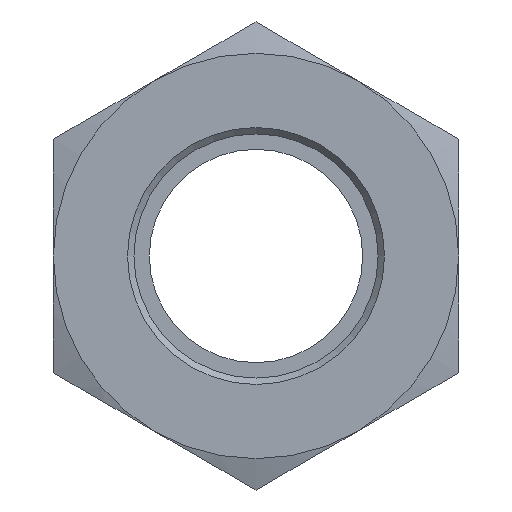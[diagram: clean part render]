
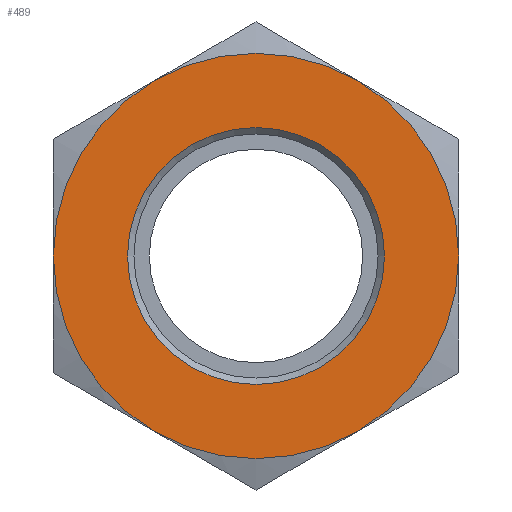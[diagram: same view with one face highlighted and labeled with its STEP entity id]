
A CAD part, front view. The second image highlights one B-rep face of the part: STEP entity #489.
In plain terms, the highlighted planar face has unit normal (0, -1, 0).
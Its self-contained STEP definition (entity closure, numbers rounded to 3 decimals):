
#40=FACE_BOUND('',#119,.T.);
#47=PLANE('',#564);
#82=FACE_OUTER_BOUND('',#118,.T.);
#118=EDGE_LOOP('',(#367,#368,#369,#370,#371,#372));
#119=EDGE_LOOP('',(#373));
#194=CIRCLE('',#559,6.023);
#198=CIRCLE('',#565,9.5);
#199=CIRCLE('',#566,9.5);
#200=CIRCLE('',#567,9.5);
#201=CIRCLE('',#568,9.5);
#202=CIRCLE('',#569,9.5);
#203=CIRCLE('',#570,9.5);
#226=VERTEX_POINT('',#797);
#230=VERTEX_POINT('',#809);
#231=VERTEX_POINT('',#810);
#232=VERTEX_POINT('',#812);
#233=VERTEX_POINT('',#814);
#234=VERTEX_POINT('',#816);
#235=VERTEX_POINT('',#818);
#275=EDGE_CURVE('',#226,#226,#194,.T.);
#281=EDGE_CURVE('',#230,#231,#198,.T.);
#282=EDGE_CURVE('',#231,#232,#199,.T.);
#283=EDGE_CURVE('',#232,#233,#200,.T.);
#284=EDGE_CURVE('',#233,#234,#201,.T.);
#285=EDGE_CURVE('',#234,#235,#202,.T.);
#286=EDGE_CURVE('',#235,#230,#203,.T.);
#367=ORIENTED_EDGE('',*,*,#281,.T.);
#368=ORIENTED_EDGE('',*,*,#282,.T.);
#369=ORIENTED_EDGE('',*,*,#283,.T.);
#370=ORIENTED_EDGE('',*,*,#284,.T.);
#371=ORIENTED_EDGE('',*,*,#285,.T.);
#372=ORIENTED_EDGE('',*,*,#286,.T.);
#373=ORIENTED_EDGE('',*,*,#275,.F.);
#489=ADVANCED_FACE('',(#82,#40),#47,.F.);
#559=AXIS2_PLACEMENT_3D('',#798,#653,#654);
#564=AXIS2_PLACEMENT_3D('',#808,#665,#666);
#565=AXIS2_PLACEMENT_3D('',#811,#667,#668);
#566=AXIS2_PLACEMENT_3D('',#813,#669,#670);
#567=AXIS2_PLACEMENT_3D('',#815,#671,#672);
#568=AXIS2_PLACEMENT_3D('',#817,#673,#674);
#569=AXIS2_PLACEMENT_3D('',#819,#675,#676);
#570=AXIS2_PLACEMENT_3D('',#820,#677,#678);
#653=DIRECTION('center_axis',(0.,-1.,0.));
#654=DIRECTION('ref_axis',(-1.,0.,0.));
#665=DIRECTION('center_axis',(0.,1.,0.));
#666=DIRECTION('ref_axis',(0.,0.,1.));
#667=DIRECTION('center_axis',(0.,-1.,0.));
#668=DIRECTION('ref_axis',(1.,0.,0.));
#669=DIRECTION('center_axis',(0.,-1.,0.));
#670=DIRECTION('ref_axis',(1.,0.,0.));
#671=DIRECTION('center_axis',(0.,-1.,0.));
#672=DIRECTION('ref_axis',(1.,0.,0.));
#673=DIRECTION('center_axis',(0.,-1.,0.));
#674=DIRECTION('ref_axis',(1.,0.,0.));
#675=DIRECTION('center_axis',(0.,-1.,0.));
#676=DIRECTION('ref_axis',(1.,0.,0.));
#677=DIRECTION('center_axis',(0.,-1.,0.));
#678=DIRECTION('ref_axis',(1.,0.,0.));
#797=CARTESIAN_POINT('',(6.023,0.,0.));
#798=CARTESIAN_POINT('Origin',(0.,0.,0.));
#808=CARTESIAN_POINT('Origin',(0.,0.,0.));
#809=CARTESIAN_POINT('',(-9.5,0.,0.));
#810=CARTESIAN_POINT('',(-4.75,0.,-8.227));
#811=CARTESIAN_POINT('Origin',(0.,0.,0.));
#812=CARTESIAN_POINT('',(4.75,0.,-8.227));
#813=CARTESIAN_POINT('Origin',(0.,0.,0.));
#814=CARTESIAN_POINT('',(9.5,0.,0.));
#815=CARTESIAN_POINT('Origin',(0.,0.,0.));
#816=CARTESIAN_POINT('',(4.75,0.,8.227));
#817=CARTESIAN_POINT('Origin',(0.,0.,0.));
#818=CARTESIAN_POINT('',(-4.75,0.,8.227));
#819=CARTESIAN_POINT('Origin',(0.,0.,0.));
#820=CARTESIAN_POINT('Origin',(0.,0.,0.));
